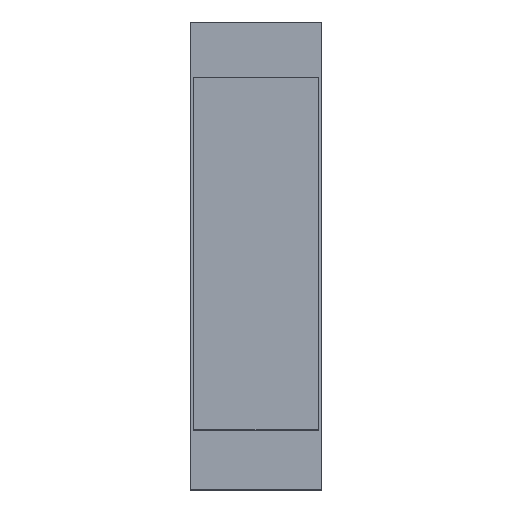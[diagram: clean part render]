
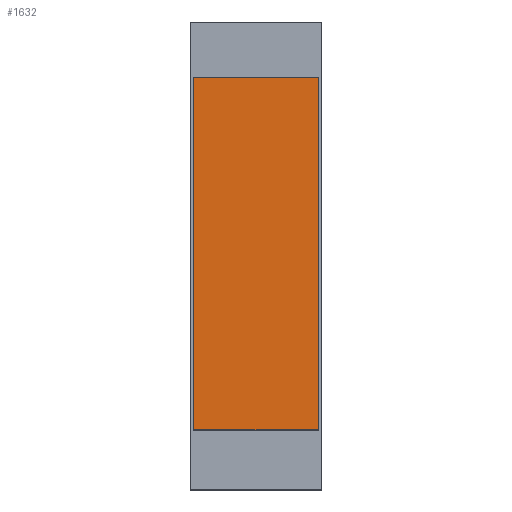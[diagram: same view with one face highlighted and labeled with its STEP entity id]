
A CAD part, top view. The second image highlights one B-rep face of the part: STEP entity #1632.
In plain terms, the highlighted planar face has unit normal (0, 0, 1).
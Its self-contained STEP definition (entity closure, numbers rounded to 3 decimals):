
#1223 = PLANE('',#1224);
#1224 = AXIS2_PLACEMENT_3D('',#1225,#1226,#1227);
#1225 = CARTESIAN_POINT('',(-5.46,-15.31,-1.71));
#1226 = DIRECTION('',(-1.,0.,0.));
#1227 = DIRECTION('',(0.,1.,0.));
#1251 = PLANE('',#1252);
#1252 = AXIS2_PLACEMENT_3D('',#1253,#1254,#1255);
#1253 = CARTESIAN_POINT('',(-5.46,15.69,-1.71));
#1254 = DIRECTION('',(0.,1.,0.));
#1255 = DIRECTION('',(1.,0.,0.));
#1279 = PLANE('',#1280);
#1280 = AXIS2_PLACEMENT_3D('',#1281,#1282,#1283);
#1281 = CARTESIAN_POINT('',(5.46,15.69,-1.71));
#1282 = DIRECTION('',(1.,0.,-0.));
#1283 = DIRECTION('',(0.,-1.,0.));
#1305 = PLANE('',#1306);
#1306 = AXIS2_PLACEMENT_3D('',#1307,#1308,#1309);
#1307 = CARTESIAN_POINT('',(5.46,-15.31,-1.71));
#1308 = DIRECTION('',(0.,-1.,0.));
#1309 = DIRECTION('',(-1.,0.,0.));
#1436 = VERTEX_POINT('',#1437);
#1437 = CARTESIAN_POINT('',(-5.46,-15.31,0.));
#1458 = EDGE_CURVE('',#1436,#1459,#1461,.T.);
#1459 = VERTEX_POINT('',#1460);
#1460 = CARTESIAN_POINT('',(-5.46,15.69,0.));
#1461 = SURFACE_CURVE('',#1462,(#1466,#1473),.PCURVE_S1.);
#1462 = LINE('',#1463,#1464);
#1463 = CARTESIAN_POINT('',(-5.46,-15.31,0.));
#1464 = VECTOR('',#1465,1.);
#1465 = DIRECTION('',(0.,1.,0.));
#1466 = PCURVE('',#1223,#1467);
#1467 = DEFINITIONAL_REPRESENTATION('',(#1468),#1472);
#1468 = LINE('',#1469,#1470);
#1469 = CARTESIAN_POINT('',(0.,-1.71));
#1470 = VECTOR('',#1471,1.);
#1471 = DIRECTION('',(1.,0.));
#1472 = ( GEOMETRIC_REPRESENTATION_CONTEXT(2) 
PARAMETRIC_REPRESENTATION_CONTEXT() REPRESENTATION_CONTEXT('2D SPACE',''
  ) );
#1473 = PCURVE('',#1474,#1479);
#1474 = PLANE('',#1475);
#1475 = AXIS2_PLACEMENT_3D('',#1476,#1477,#1478);
#1476 = CARTESIAN_POINT('',(0.,0.19,0.));
#1477 = DIRECTION('',(-0.,-0.,-1.));
#1478 = DIRECTION('',(-1.,0.,0.));
#1479 = DEFINITIONAL_REPRESENTATION('',(#1480),#1484);
#1480 = LINE('',#1481,#1482);
#1481 = CARTESIAN_POINT('',(5.46,-15.5));
#1482 = VECTOR('',#1483,1.);
#1483 = DIRECTION('',(0.,1.));
#1484 = ( GEOMETRIC_REPRESENTATION_CONTEXT(2) 
PARAMETRIC_REPRESENTATION_CONTEXT() REPRESENTATION_CONTEXT('2D SPACE',''
  ) );
#1512 = VERTEX_POINT('',#1513);
#1513 = CARTESIAN_POINT('',(5.46,-15.31,0.));
#1534 = EDGE_CURVE('',#1512,#1436,#1535,.T.);
#1535 = SURFACE_CURVE('',#1536,(#1540,#1547),.PCURVE_S1.);
#1536 = LINE('',#1537,#1538);
#1537 = CARTESIAN_POINT('',(5.46,-15.31,0.));
#1538 = VECTOR('',#1539,1.);
#1539 = DIRECTION('',(-1.,0.,0.));
#1540 = PCURVE('',#1305,#1541);
#1541 = DEFINITIONAL_REPRESENTATION('',(#1542),#1546);
#1542 = LINE('',#1543,#1544);
#1543 = CARTESIAN_POINT('',(0.,-1.71));
#1544 = VECTOR('',#1545,1.);
#1545 = DIRECTION('',(1.,0.));
#1546 = ( GEOMETRIC_REPRESENTATION_CONTEXT(2) 
PARAMETRIC_REPRESENTATION_CONTEXT() REPRESENTATION_CONTEXT('2D SPACE',''
  ) );
#1547 = PCURVE('',#1474,#1548);
#1548 = DEFINITIONAL_REPRESENTATION('',(#1549),#1553);
#1549 = LINE('',#1550,#1551);
#1550 = CARTESIAN_POINT('',(-5.46,-15.5));
#1551 = VECTOR('',#1552,1.);
#1552 = DIRECTION('',(1.,0.));
#1553 = ( GEOMETRIC_REPRESENTATION_CONTEXT(2) 
PARAMETRIC_REPRESENTATION_CONTEXT() REPRESENTATION_CONTEXT('2D SPACE',''
  ) );
#1561 = VERTEX_POINT('',#1562);
#1562 = CARTESIAN_POINT('',(5.46,15.69,0.));
#1583 = EDGE_CURVE('',#1561,#1512,#1584,.T.);
#1584 = SURFACE_CURVE('',#1585,(#1589,#1596),.PCURVE_S1.);
#1585 = LINE('',#1586,#1587);
#1586 = CARTESIAN_POINT('',(5.46,15.69,0.));
#1587 = VECTOR('',#1588,1.);
#1588 = DIRECTION('',(0.,-1.,0.));
#1589 = PCURVE('',#1279,#1590);
#1590 = DEFINITIONAL_REPRESENTATION('',(#1591),#1595);
#1591 = LINE('',#1592,#1593);
#1592 = CARTESIAN_POINT('',(0.,-1.71));
#1593 = VECTOR('',#1594,1.);
#1594 = DIRECTION('',(1.,0.));
#1595 = ( GEOMETRIC_REPRESENTATION_CONTEXT(2) 
PARAMETRIC_REPRESENTATION_CONTEXT() REPRESENTATION_CONTEXT('2D SPACE',''
  ) );
#1596 = PCURVE('',#1474,#1597);
#1597 = DEFINITIONAL_REPRESENTATION('',(#1598),#1602);
#1598 = LINE('',#1599,#1600);
#1599 = CARTESIAN_POINT('',(-5.46,15.5));
#1600 = VECTOR('',#1601,1.);
#1601 = DIRECTION('',(0.,-1.));
#1602 = ( GEOMETRIC_REPRESENTATION_CONTEXT(2) 
PARAMETRIC_REPRESENTATION_CONTEXT() REPRESENTATION_CONTEXT('2D SPACE',''
  ) );
#1610 = EDGE_CURVE('',#1459,#1561,#1611,.T.);
#1611 = SURFACE_CURVE('',#1612,(#1616,#1623),.PCURVE_S1.);
#1612 = LINE('',#1613,#1614);
#1613 = CARTESIAN_POINT('',(-5.46,15.69,0.));
#1614 = VECTOR('',#1615,1.);
#1615 = DIRECTION('',(1.,0.,0.));
#1616 = PCURVE('',#1251,#1617);
#1617 = DEFINITIONAL_REPRESENTATION('',(#1618),#1622);
#1618 = LINE('',#1619,#1620);
#1619 = CARTESIAN_POINT('',(0.,-1.71));
#1620 = VECTOR('',#1621,1.);
#1621 = DIRECTION('',(1.,0.));
#1622 = ( GEOMETRIC_REPRESENTATION_CONTEXT(2) 
PARAMETRIC_REPRESENTATION_CONTEXT() REPRESENTATION_CONTEXT('2D SPACE',''
  ) );
#1623 = PCURVE('',#1474,#1624);
#1624 = DEFINITIONAL_REPRESENTATION('',(#1625),#1629);
#1625 = LINE('',#1626,#1627);
#1626 = CARTESIAN_POINT('',(5.46,15.5));
#1627 = VECTOR('',#1628,1.);
#1628 = DIRECTION('',(-1.,0.));
#1629 = ( GEOMETRIC_REPRESENTATION_CONTEXT(2) 
PARAMETRIC_REPRESENTATION_CONTEXT() REPRESENTATION_CONTEXT('2D SPACE',''
  ) );
#1632 = ADVANCED_FACE('',(#1633),#1474,.F.);
#1633 = FACE_BOUND('',#1634,.F.);
#1634 = EDGE_LOOP('',(#1635,#1636,#1637,#1638));
#1635 = ORIENTED_EDGE('',*,*,#1610,.T.);
#1636 = ORIENTED_EDGE('',*,*,#1583,.T.);
#1637 = ORIENTED_EDGE('',*,*,#1534,.T.);
#1638 = ORIENTED_EDGE('',*,*,#1458,.T.);
